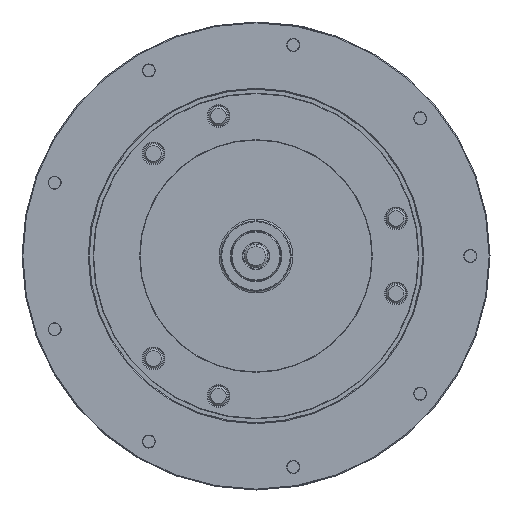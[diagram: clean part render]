
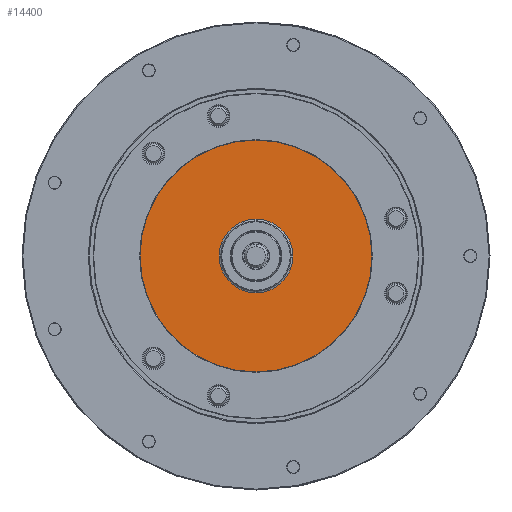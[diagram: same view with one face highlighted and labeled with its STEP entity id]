
A CAD part, left-side view. The second image highlights one B-rep face of the part: STEP entity #14400.
In plain terms, the highlighted planar face has unit normal (-1, 0, 0).
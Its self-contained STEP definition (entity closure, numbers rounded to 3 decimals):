
#1530 = DIRECTION ( 'NONE',  ( 0., 0., -1. ) ) ;
#3814 = DIRECTION ( 'NONE',  ( 1., 0., 0. ) ) ;
#6495 = CARTESIAN_POINT ( 'NONE',  ( -111.5, 0., -132. ) ) ;
#8049 = CARTESIAN_POINT ( 'NONE',  ( -111.5, 0., 42. ) ) ;
#14400 = ADVANCED_FACE ( 'NONE', ( #28589, #63304 ), #95697, .F. ) ;
#16180 = CARTESIAN_POINT ( 'NONE',  ( -111.5, 0., 132. ) ) ;
#21967 = CARTESIAN_POINT ( 'NONE',  ( -111.5, 0., 0. ) ) ;
#22126 = CARTESIAN_POINT ( 'NONE',  ( -111.5, 0., -42. ) ) ;
#23851 = CIRCLE ( 'NONE', #98256, 132. ) ;
#26559 = CARTESIAN_POINT ( 'NONE',  ( -111.5, 0., 0. ) ) ;
#28589 = FACE_OUTER_BOUND ( 'NONE', #42298, .T. ) ;
#31034 = ORIENTED_EDGE ( 'NONE', *, *, #76775, .F. ) ;
#31588 = CIRCLE ( 'NONE', #46025, 42. ) ;
#31836 = DIRECTION ( 'NONE',  ( 0., 0., -1. ) ) ;
#33553 = AXIS2_PLACEMENT_3D ( 'NONE', #92087, #83557, #31836 ) ;
#39082 = EDGE_CURVE ( 'NONE', #64650, #54929, #89882, .T. ) ;
#40776 = AXIS2_PLACEMENT_3D ( 'NONE', #55567, #107805, #108929 ) ;
#42298 = EDGE_LOOP ( 'NONE', ( #107318, #31034 ) ) ;
#43477 = VERTEX_POINT ( 'NONE', #16180 ) ;
#46025 = AXIS2_PLACEMENT_3D ( 'NONE', #26559, #61287, #1530 ) ;
#49861 = CIRCLE ( 'NONE', #40776, 132. ) ;
#51964 = DIRECTION ( 'NONE',  ( 1., 0., 0. ) ) ;
#53679 = EDGE_LOOP ( 'NONE', ( #89443, #96574 ) ) ;
#54929 = VERTEX_POINT ( 'NONE', #8049 ) ;
#55567 = CARTESIAN_POINT ( 'NONE',  ( -111.5, 0., 0. ) ) ;
#60804 = AXIS2_PLACEMENT_3D ( 'NONE', #97943, #51964, #108696 ) ;
#61287 = DIRECTION ( 'NONE',  ( 1., 0., 0. ) ) ;
#63304 = FACE_BOUND ( 'NONE', #53679, .T. ) ;
#64650 = VERTEX_POINT ( 'NONE', #22126 ) ;
#71841 = VERTEX_POINT ( 'NONE', #6495 ) ;
#72031 = DIRECTION ( 'NONE',  ( 0., 0., -1. ) ) ;
#75707 = EDGE_CURVE ( 'NONE', #54929, #64650, #31588, .T. ) ;
#76775 = EDGE_CURVE ( 'NONE', #71841, #43477, #49861, .T. ) ;
#83557 = DIRECTION ( 'NONE',  ( 1., 0., 0. ) ) ;
#89443 = ORIENTED_EDGE ( 'NONE', *, *, #39082, .T. ) ;
#89882 = CIRCLE ( 'NONE', #33553, 42. ) ;
#91022 = EDGE_CURVE ( 'NONE', #43477, #71841, #23851, .T. ) ;
#92087 = CARTESIAN_POINT ( 'NONE',  ( -111.5, 0., 0. ) ) ;
#95697 = PLANE ( 'NONE',  #60804 ) ;
#96574 = ORIENTED_EDGE ( 'NONE', *, *, #75707, .T. ) ;
#97943 = CARTESIAN_POINT ( 'NONE',  ( -111.5, -42., 0. ) ) ;
#98256 = AXIS2_PLACEMENT_3D ( 'NONE', #21967, #3814, #72031 ) ;
#107318 = ORIENTED_EDGE ( 'NONE', *, *, #91022, .F. ) ;
#107805 = DIRECTION ( 'NONE',  ( 1., 0., 0. ) ) ;
#108696 = DIRECTION ( 'NONE',  ( 0., 0., -1. ) ) ;
#108929 = DIRECTION ( 'NONE',  ( 0., 0., -1. ) ) ;
